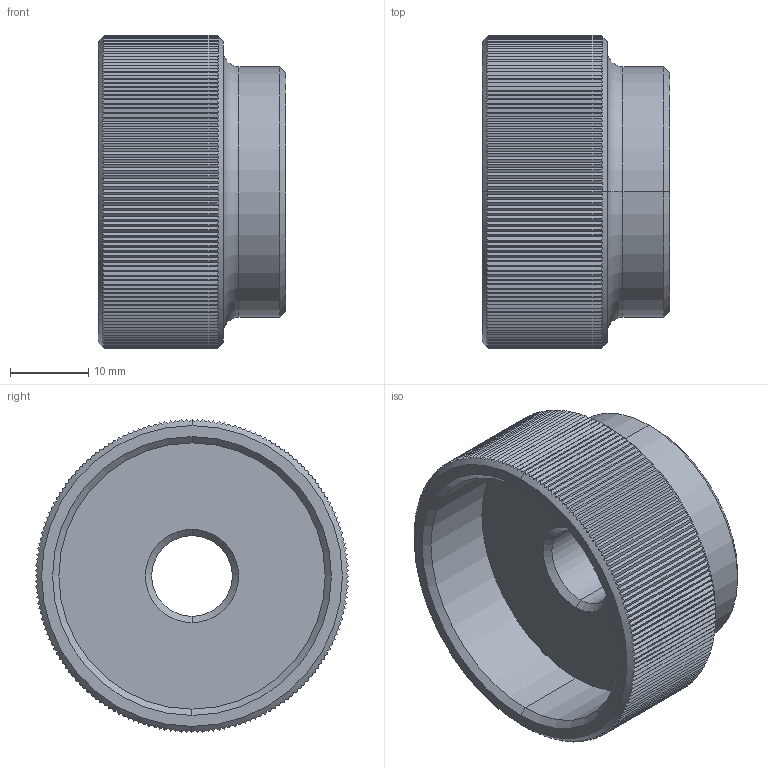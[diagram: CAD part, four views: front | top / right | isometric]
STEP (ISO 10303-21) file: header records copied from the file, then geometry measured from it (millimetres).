
FILE_DESCRIPTION (( 'STEP AP203' ), '1' );
FILE_NAME ('37170.W0012.step', '2011-09-15T08:23:13', ( 'Wixroyd' ), ( 'Wixroyd' ), 'SwSTEP 2.0', 'SolidWorks 2009', '' );
FILE_SCHEMA (( 'CONFIG_CONTROL_DESIGN' ));
Length unit declared in the file: millimetre
Products named in the file (1): 37170.W0012
Bounding box: 24 x 40 x 40 mm (x, y, z)
Volume: 15999.6 mm3; surface area: 6759.2 mm2
Topology: 1 solids, 1 shells, 382 faces, 1122 edges, 744 vertices
Faces by surface type: plane 364, cone 10, cylinder 6, torus 2
Entity records: 13237 total; most frequent: CARTESIAN_POINT 4409, ORIENTED_EDGE 2244, DIRECTION 1194, EDGE_CURVE 1122, VERTEX_POINT 744, B_SPLINE_CURVE_WITH_KNOTS 720, AXIS2_PLACEMENT_3D 409, EDGE_LOOP 386
